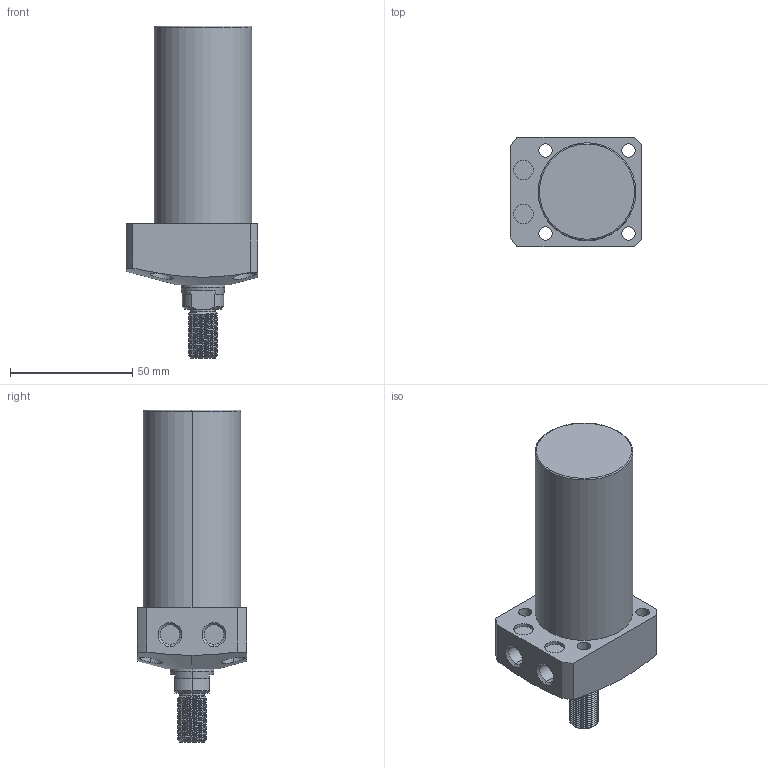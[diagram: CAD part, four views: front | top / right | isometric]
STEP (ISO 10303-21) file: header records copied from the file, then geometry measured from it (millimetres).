
FILE_DESCRIPTION (( 'STEP AP203' ), '1' );
FILE_NAME ('CLL-040CT-055.STEP', '2020-01-08T09:03:40', ( '' ), ( '' ), 'SwSTEP 2.0', 'SolidWorks 2015', '' );
FILE_SCHEMA (( 'CONFIG_CONTROL_DESIGN' ));
Length unit declared in the file: millimetre
Products named in the file (1): CLL-040CT-055
Bounding box: 54 x 45 x 136 mm (x, y, z)
Volume: 155471.6 mm3; surface area: 23049.4 mm2
Topology: 1 solids, 1 shells, 114 faces, 290 edges, 189 vertices
Faces by surface type: cylinder 71, plane 23, cone 16, torus 2, bspline 2
Entity records: 5837 total; most frequent: CARTESIAN_POINT 3188, ORIENTED_EDGE 580, DIRECTION 498, EDGE_CURVE 290, AXIS2_PLACEMENT_3D 198, VERTEX_POINT 189, EDGE_LOOP 133, FACE_OUTER_BOUND 114
